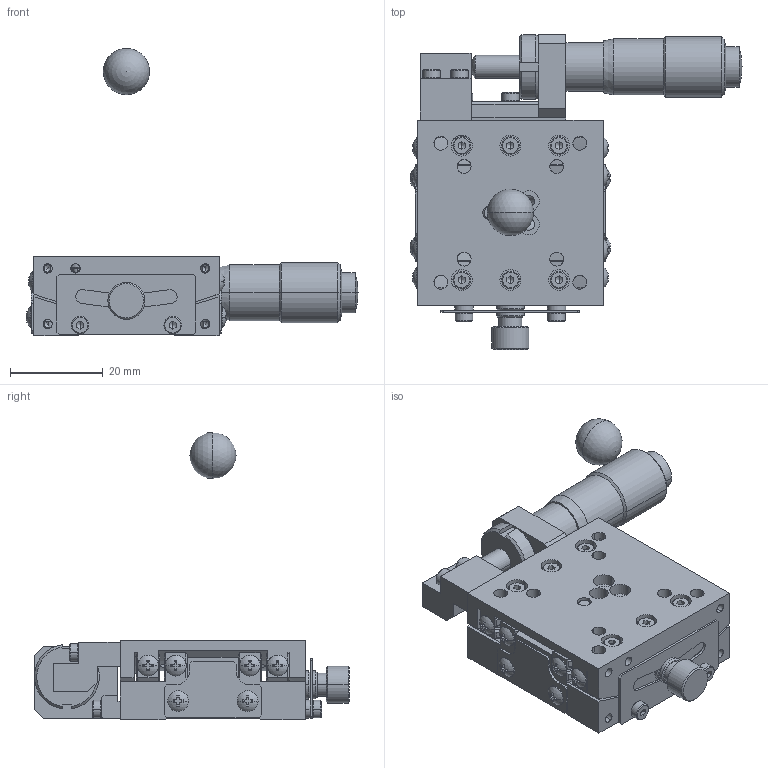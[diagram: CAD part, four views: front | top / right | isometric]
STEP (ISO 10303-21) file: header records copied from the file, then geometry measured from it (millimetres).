
FILE_DESCRIPTION (( 'STEP AP203' ), '1' );
FILE_NAME ('ST04A-S1T-R.STEP', '2010-01-06T04:55:47', ( ' ' ), ( ' ' ), 'SwSTEP 2.0', 'SolidWorks 2009', '' );
FILE_SCHEMA (( 'CONFIG_CONTROL_DESIGN' ));
Products named in the file (7): DP002890-1010-00-Part-1-3; ST04A-S1T-R.sldasm-Part-1; ST04A-S1T-R; DP002890-1020-00-3; DP002890-1020-00-Part-1-3; DP002890-1010-00-3; MICROMETERHEAD(MHS4-13)spindle-7
Assembly tree (6 placements, depth 3):
  ST04A-S1T-R
    DP002890-1020-00-3
      DP002890-1020-00-Part-1-3
    ST04A-S1T-R.sldasm-Part-1
    MICROMETERHEAD(MHS4-13)spindle-7
    DP002890-1010-00-3
      DP002890-1010-00-Part-1-3
Bounding box: 71.68 x 68 x 62 mm (x, y, z)
Volume: 29825.6 mm3; surface area: 24048.3 mm2
Topology: 4 solids, 48 shells, 1613 faces, 3875 edges, 2323 vertices
Faces by surface type: plane 720, cylinder 512, cone 351, sphere 30
Entity records: 49047 total; most frequent: CARTESIAN_POINT 10627, DIRECTION 8267, ORIENTED_EDGE 7556, EDGE_CURVE 3778, AXIS2_PLACEMENT_3D 3181, VERTEX_POINT 2320, VECTOR 1905, LINE 1905
